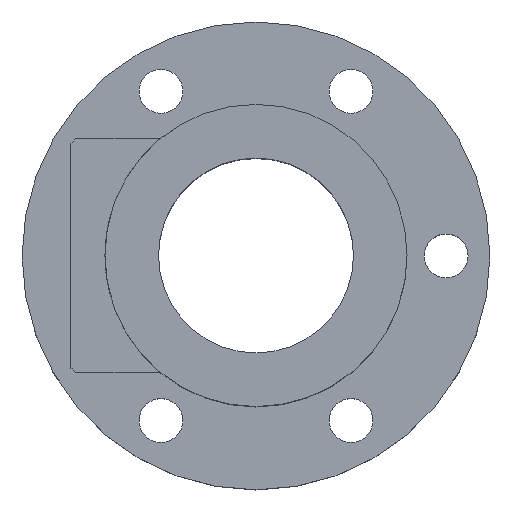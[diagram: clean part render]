
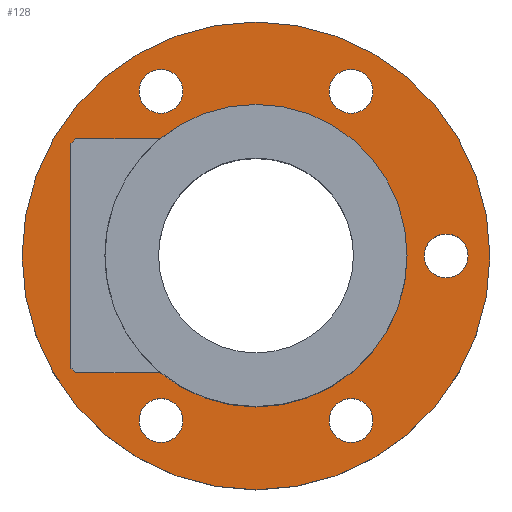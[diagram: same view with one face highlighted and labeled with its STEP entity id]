
A CAD part, top view. The second image highlights one B-rep face of the part: STEP entity #128.
In plain terms, the highlighted planar face has unit normal (0, 0, 1).
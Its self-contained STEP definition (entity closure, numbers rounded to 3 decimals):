
#97=PLANE('',#515);
#112=FACE_OUTER_BOUND('',#251,.T.);
#128=ADVANCED_FACE('',(#203,#204,#205,#112,#206,#207,#208),#97,.T.);
#203=FACE_BOUND('',#248,.T.);
#204=FACE_BOUND('',#249,.T.);
#205=FACE_BOUND('',#250,.T.);
#206=FACE_BOUND('',#252,.T.);
#207=FACE_BOUND('',#253,.T.);
#208=FACE_BOUND('',#254,.T.);
#248=EDGE_LOOP('',(#311));
#249=EDGE_LOOP('',(#312));
#250=EDGE_LOOP('',(#313));
#251=EDGE_LOOP('',(#314));
#252=EDGE_LOOP('',(#315));
#253=EDGE_LOOP('',(#316));
#254=EDGE_LOOP('',(#317));
#311=ORIENTED_EDGE('',*,*,#437,.F.);
#312=ORIENTED_EDGE('',*,*,#438,.F.);
#313=ORIENTED_EDGE('',*,*,#432,.F.);
#314=ORIENTED_EDGE('',*,*,#439,.T.);
#315=ORIENTED_EDGE('',*,*,#440,.F.);
#316=ORIENTED_EDGE('',*,*,#441,.F.);
#317=ORIENTED_EDGE('',*,*,#442,.F.);
#394=VERTEX_POINT('',#694);
#399=VERTEX_POINT('',#705);
#400=VERTEX_POINT('',#707);
#401=VERTEX_POINT('',#709);
#402=VERTEX_POINT('',#711);
#403=VERTEX_POINT('',#713);
#404=VERTEX_POINT('',#715);
#432=EDGE_CURVE('',#394,#394,#476,.T.);
#437=EDGE_CURVE('',#399,#399,#479,.T.);
#438=EDGE_CURVE('',#400,#400,#480,.T.);
#439=EDGE_CURVE('',#401,#401,#481,.T.);
#440=EDGE_CURVE('',#402,#402,#482,.T.);
#441=EDGE_CURVE('',#403,#403,#483,.T.);
#442=EDGE_CURVE('',#404,#404,#484,.T.);
#476=CIRCLE('',#505,31.);
#479=CIRCLE('',#509,4.5);
#480=CIRCLE('',#510,4.5);
#481=CIRCLE('',#511,48.);
#482=CIRCLE('',#512,4.5);
#483=CIRCLE('',#513,4.5);
#484=CIRCLE('',#514,4.5);
#505=AXIS2_PLACEMENT_3D('',#693,#564,#565);
#509=AXIS2_PLACEMENT_3D('',#704,#574,#575);
#510=AXIS2_PLACEMENT_3D('',#706,#576,#577);
#511=AXIS2_PLACEMENT_3D('',#708,#578,#579);
#512=AXIS2_PLACEMENT_3D('',#710,#580,#581);
#513=AXIS2_PLACEMENT_3D('',#712,#582,#583);
#514=AXIS2_PLACEMENT_3D('',#714,#584,#585);
#515=AXIS2_PLACEMENT_3D('',#716,#586,#587);
#564=DIRECTION('',(0.,0.,1.));
#565=DIRECTION('',(1.,0.,0.));
#574=DIRECTION('',(0.,0.,1.));
#575=DIRECTION('',(-0.5,-0.866,0.));
#576=DIRECTION('',(0.,0.,1.));
#577=DIRECTION('',(0.5,0.866,0.));
#578=DIRECTION('',(0.,0.,1.));
#579=DIRECTION('',(1.,0.,0.));
#580=DIRECTION('',(0.,0.,1.));
#581=DIRECTION('',(1.,0.,0.));
#582=DIRECTION('',(0.,0.,1.));
#583=DIRECTION('',(-1.,0.,0.));
#584=DIRECTION('',(0.,0.,1.));
#585=DIRECTION('',(0.5,-0.866,0.));
#586=DIRECTION('',(0.,0.,1.));
#587=DIRECTION('',(1.,0.,0.));
#693=CARTESIAN_POINT('',(0.,0.,16.));
#694=CARTESIAN_POINT('',(31.,0.,16.));
#704=CARTESIAN_POINT('',(19.5,-33.775,16.));
#705=CARTESIAN_POINT('',(17.25,-37.672,16.));
#706=CARTESIAN_POINT('',(-19.5,33.775,16.));
#707=CARTESIAN_POINT('',(-17.25,37.672,16.));
#708=CARTESIAN_POINT('',(0.,0.,16.));
#709=CARTESIAN_POINT('',(48.,0.,16.));
#710=CARTESIAN_POINT('',(19.5,33.775,16.));
#711=CARTESIAN_POINT('',(24.,33.775,16.));
#712=CARTESIAN_POINT('',(-19.5,-33.775,16.));
#713=CARTESIAN_POINT('',(-24.,-33.775,16.));
#714=CARTESIAN_POINT('',(39.,0.,16.));
#715=CARTESIAN_POINT('',(41.25,-3.897,16.));
#716=CARTESIAN_POINT('',(0.,0.,16.));
